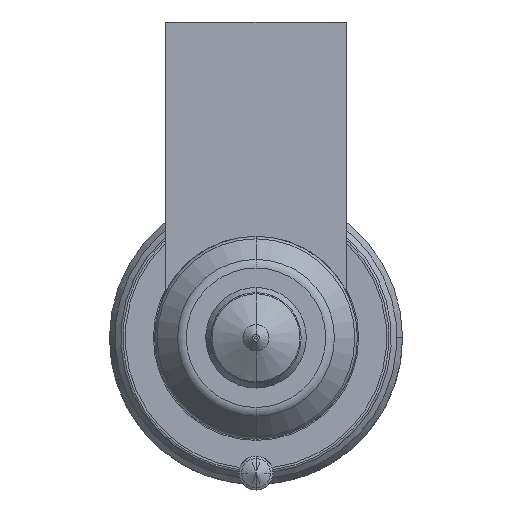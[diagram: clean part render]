
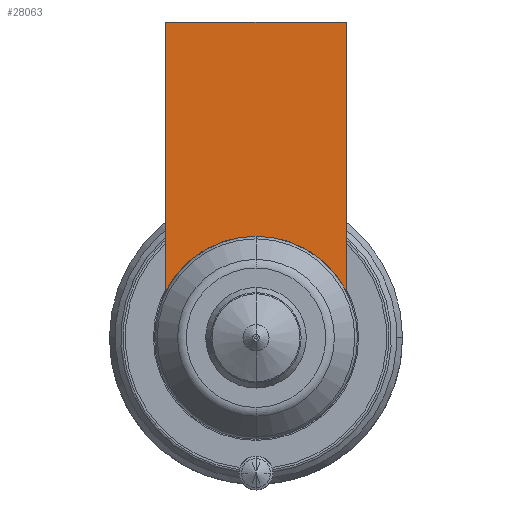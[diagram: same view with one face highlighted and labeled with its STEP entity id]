
A CAD part, front view. The second image highlights one B-rep face of the part: STEP entity #28063.
In plain terms, the highlighted planar face has unit normal (0, -1, 0).
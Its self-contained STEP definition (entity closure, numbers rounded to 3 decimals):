
#27244=CARTESIAN_POINT('',(0.,-54.,0.));
#27245=DIRECTION('',(0.,-1.,0.));
#27246=DIRECTION('',(0.,0.,1.));
#27247=AXIS2_PLACEMENT_3D('',#27244,#27245,#27246);
#27253=DIRECTION('',(1.,0.,0.));
#27254=VECTOR('',#27253,16.);
#27255=CARTESIAN_POINT('',(-8.,-54.,28.));
#27256=LINE('',#27255,#27254);
#27260=CARTESIAN_POINT('',(0.,-54.,0.));
#27261=DIRECTION('',(0.,-1.,0.));
#27262=DIRECTION('',(0.889,0.,0.458));
#27263=AXIS2_PLACEMENT_3D('',#27260,#27261,#27262);
#27415=DIRECTION('',(0.,0.,-1.));
#27416=VECTOR('',#27415,23.877);
#27417=CARTESIAN_POINT('',(8.,-54.,28.));
#27418=LINE('',#27417,#27416);
#27478=DIRECTION('',(0.,0.,-1.));
#27479=VECTOR('',#27478,23.877);
#27480=CARTESIAN_POINT('',(-8.,-54.,28.));
#27481=LINE('',#27480,#27479);
#28021=CARTESIAN_POINT('',(-8.,-54.,28.));
#28022=VERTEX_POINT('',#28021);
#28027=CARTESIAN_POINT('',(8.,-54.,28.));
#28028=VERTEX_POINT('',#28027);
#28033=CARTESIAN_POINT('',(0.,-54.,9.));
#28034=CARTESIAN_POINT('',(-8.,-54.,4.123));
#28035=VERTEX_POINT('',#28033);
#28036=VERTEX_POINT('',#28034);
#28037=CARTESIAN_POINT('',(8.,-54.,4.123));
#28038=VERTEX_POINT('',#28037);
#28046=CARTESIAN_POINT('',(0.,-54.,9.));
#28047=DIRECTION('',(0.,1.,0.));
#28048=DIRECTION('',(0.,0.,-1.));
#28049=AXIS2_PLACEMENT_3D('',#28046,#28047,#28048);
#28050=PLANE('',#28049);
#28052=ORIENTED_EDGE('',*,*,#28051,.T.);
#28054=ORIENTED_EDGE('',*,*,#28053,.F.);
#28056=ORIENTED_EDGE('',*,*,#28055,.T.);
#28058=ORIENTED_EDGE('',*,*,#28057,.T.);
#28060=ORIENTED_EDGE('',*,*,#28059,.T.);
#28061=EDGE_LOOP('',(#28052,#28054,#28056,#28058,#28060));
#28062=FACE_OUTER_BOUND('',#28061,.F.);
#28063=ADVANCED_FACE('',(#28062),#28050,.F.);
#27248=CIRCLE('',#27247,9.);
#27264=CIRCLE('',#27263,9.);
#28051=EDGE_CURVE('',#28035,#28036,#27248,.T.);
#28053=EDGE_CURVE('',#28022,#28036,#27481,.T.);
#28055=EDGE_CURVE('',#28022,#28028,#27256,.T.);
#28057=EDGE_CURVE('',#28028,#28038,#27418,.T.);
#28059=EDGE_CURVE('',#28038,#28035,#27264,.T.);
